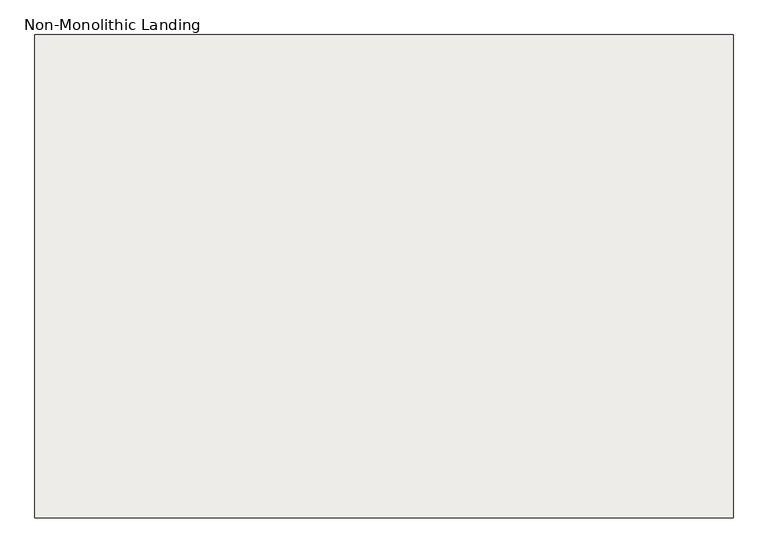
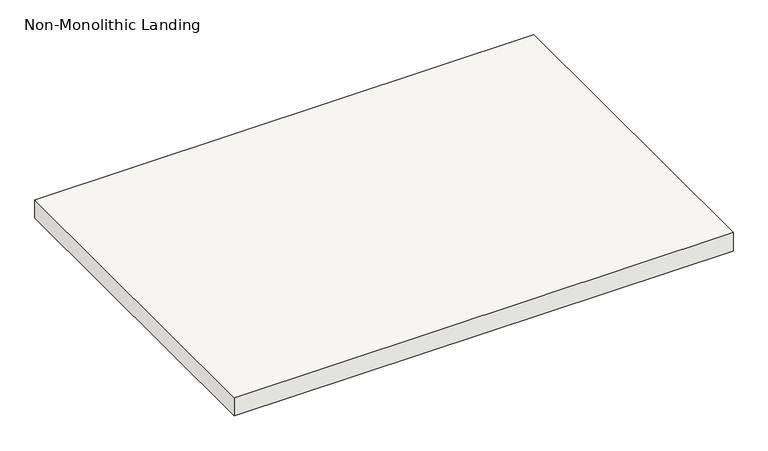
"""IFC4 building model written with IfcOpenShell, lengths in millimetres: slab geometry, Non-Monolithic Landing."""

from ifc_helpers import new_model, si_unit, frame, origin, place, context, project, spatial, polyline, outline, extrude, source, transform, mapped, element, save


def non_monolithic_landing_0306a4b2(model_context):
    return source(origin(), model_context, "Body", "SweptSolid", [
        extrude(outline(polyline([(16212.6035021, 44245.3361774), (17533.4035021, 44245.3361774), (17533.4035021, 43330.9361774), (16212.6035021, 43330.9361774), (16212.6035021, 44245.3361774)])), frame((0.0, 0.0, 2126.3428571), z_axis=(0.0, 0.0, 1.0), x_axis=(1.0, 0.0, 0.0)), (0.0, 0.0, 1.0), 50.8),
    ])


if __name__ == "__main__":
    model = new_model("IFC4")
    model_context = context("Model", 3, world=origin())
    ifc_project = project(units=[si_unit("LENGTHUNIT", "METRE", prefix="MILLI")], contexts=[model_context])
    site = spatial("IfcSite", under=ifc_project)
    building = spatial("IfcBuilding", under=site)
    placement = place(None, origin())
    non_monolithic_landing_shape = non_monolithic_landing_0306a4b2(model_context)
    element("IfcSlab", 1, ObjectType="Non-Monolithic Landing", at=placement, inside=building, context=model_context, shape_type="MappedRepresentation", body=[
        mapped(non_monolithic_landing_shape, transform((0.0, 0.0, 0.0), x_axis=(1.0, 0.0, 0.0), y_axis=(0.0, 1.0, 0.0), z_axis=(0.0, 0.0, 1.0))),
    ])
    save(model, "model.ifc")
